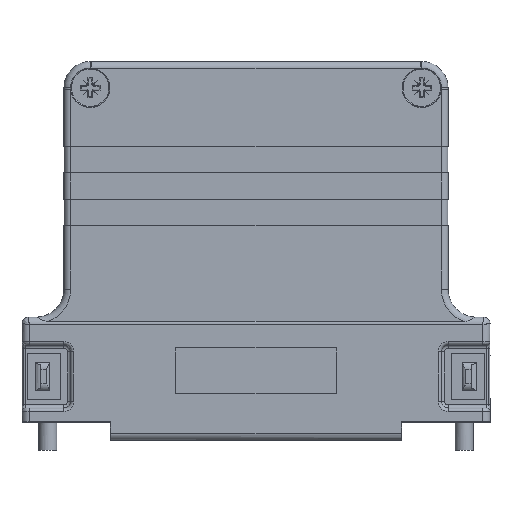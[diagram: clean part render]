
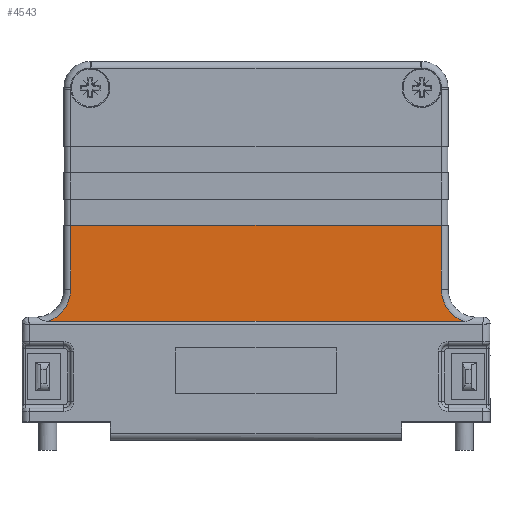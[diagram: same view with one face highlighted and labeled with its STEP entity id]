
A CAD part, top view. The second image highlights one B-rep face of the part: STEP entity #4543.
In plain terms, the highlighted planar face has unit normal (0, 0, 1).
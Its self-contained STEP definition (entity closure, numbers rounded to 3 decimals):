
#4543=ADVANCED_FACE('NONE',(#5446),#4973,.F.);
#4973=PLANE('',#15872);
#5446=FACE_OUTER_BOUND('',#6067,.T.);
#6067=EDGE_LOOP('',(#9021,#9022,#9023,#9024,#9025,#9026));
#6596=CIRCLE('',#15870,5.25);
#6597=CIRCLE('',#15871,5.25);
#9021=ORIENTED_EDGE('',*,*,#12351,.T.);
#9022=ORIENTED_EDGE('',*,*,#11915,.T.);
#9023=ORIENTED_EDGE('',*,*,#12345,.T.);
#9024=ORIENTED_EDGE('',*,*,#12352,.T.);
#9025=ORIENTED_EDGE('',*,*,#12281,.T.);
#9026=ORIENTED_EDGE('',*,*,#12353,.T.);
#10703=VERTEX_POINT('',#21676);
#10704=VERTEX_POINT('',#21678);
#10892=VERTEX_POINT('',#23042);
#10893=VERTEX_POINT('',#23044);
#10929=VERTEX_POINT('',#23288);
#10932=VERTEX_POINT('',#23312);
#11915=EDGE_CURVE('NONE',#10704,#10703,#13202,.T.);
#12281=EDGE_CURVE('NONE',#10893,#10892,#13410,.T.);
#12345=EDGE_CURVE('NONE',#10703,#10929,#13430,.T.);
#12351=EDGE_CURVE('NONE',#10932,#10704,#13433,.T.);
#12352=EDGE_CURVE('NONE',#10929,#10893,#6596,.T.);
#12353=EDGE_CURVE('NONE',#10892,#10932,#6597,.T.);
#13202=LINE('',#21677,#14142);
#13410=LINE('',#23043,#14350);
#13430=LINE('',#23289,#14370);
#13433=LINE('',#23311,#14373);
#14142=VECTOR('',#17401,1.);
#14350=VECTOR('',#18117,1.);
#14370=VECTOR('',#18249,1.);
#14373=VECTOR('',#18262,1.);
#15870=AXIS2_PLACEMENT_3D('',#23313,#18263,#18264);
#15871=AXIS2_PLACEMENT_3D('',#23314,#18265,#18266);
#15872=AXIS2_PLACEMENT_3D('',#23315,#18267,#18268);
#17401=DIRECTION('',(-1.,0.,0.));
#18117=DIRECTION('',(1.,0.,0.));
#18249=DIRECTION('',(0.,-1.,0.));
#18262=DIRECTION('',(0.,1.,0.));
#18263=DIRECTION('',(0.,0.,-1.));
#18264=DIRECTION('',(-1.,0.,0.));
#18265=DIRECTION('',(0.,0.,-1.));
#18266=DIRECTION('',(-1.,0.,0.));
#18267=DIRECTION('',(0.,0.,-1.));
#18268=DIRECTION('',(-1.,0.,0.));
#21676=CARTESIAN_POINT('',(-28.3,30.,18.7));
#21677=CARTESIAN_POINT('',(0.,30.,18.7));
#21678=CARTESIAN_POINT('',(28.3,30.,18.7));
#23042=CARTESIAN_POINT('',(31.644,15.358,18.7));
#23043=CARTESIAN_POINT('',(-31.644,15.358,18.7));
#23044=CARTESIAN_POINT('',(-31.644,15.358,18.7));
#23288=CARTESIAN_POINT('',(-28.3,20.25,18.7));
#23289=CARTESIAN_POINT('',(-28.3,20.25,18.7));
#23311=CARTESIAN_POINT('',(28.3,51.,18.7));
#23312=CARTESIAN_POINT('',(28.3,20.25,18.7));
#23313=CARTESIAN_POINT('',(-33.55,20.25,18.7));
#23314=CARTESIAN_POINT('',(33.55,20.25,18.7));
#23315=CARTESIAN_POINT('',(0.,0.,18.7));
